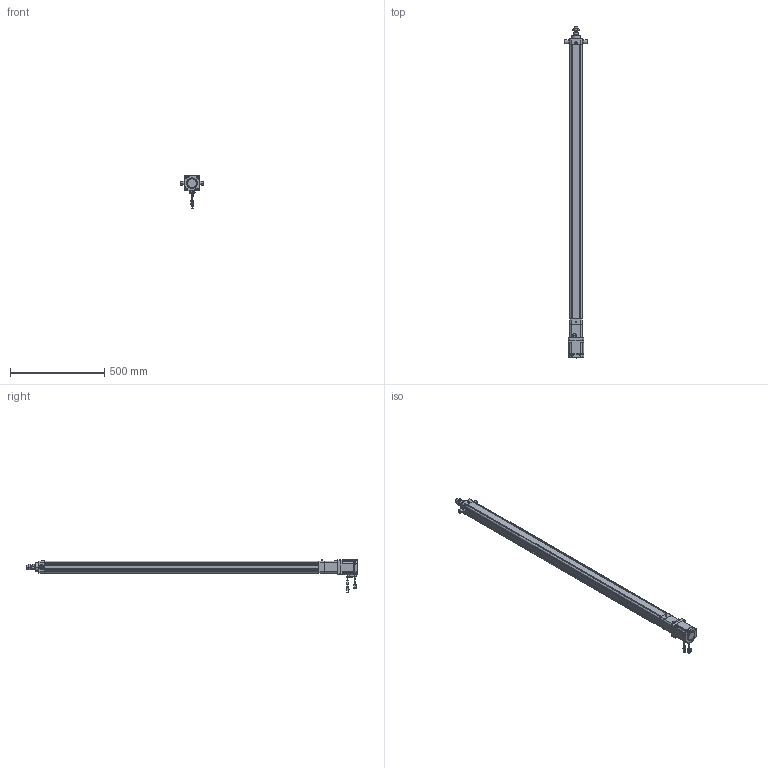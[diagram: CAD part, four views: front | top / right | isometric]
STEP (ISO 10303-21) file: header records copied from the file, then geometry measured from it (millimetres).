
FILE_DESCRIPTION((''),'2;1');
FILE_NAME('HE50-D-100-X1_ASM','2020-05-23T',('ASUS20200'),(''),'CREO PARAMETRIC BY PTC INC, 2014190','CREO PARAMETRIC BY PTC INC, 2014190','');
FILE_SCHEMA(('CONFIG_CONTROL_DESIGN'));
Length unit declared in the file: millimetre
Products named in the file (26): HE50-D-P-001-X1; HE50-D-P-002-X1; HE50-D-P-003-X1; HE50-D-009-X1; HE50-D-010-X1; 6301ZZ; LGLM-M8-22; SKT-16; SLM-01; YZ-M6X1; _MHMF082L1A2; _CABLE_MOTOR_BOTTOM_05; _CABLE_MOTOR_TOP_05; _MOTOR_CONNECTOR_2; _CABLE_BRAKE_BOTTOM_05; _CABLE_BRAKE_TOP_05; _MHMF_CONNECTOR_9_PIN_A6; MHMF082L1A2M2_1_ASM; M6X16; JX6X6X20; JDB303820; HE50-TC; HE50-D-P-005-X1; HE50-D-P-004-X1; HE50-D-P-008-X1; HE50-D-100-X1_ASM
Assembly tree (36 placements, depth 3):
  HE50-D-100-X1_ASM
    HE50-D-P-001-X1
    HE50-D-P-002-X1
    HE50-D-P-003-X1
    HE50-D-009-X1
    HE50-D-010-X1
    6301ZZ
    LGLM-M8-22  x8
    SKT-16
    SLM-01
    YZ-M6X1
    MHMF082L1A2M2_1_ASM
      _MHMF082L1A2
      _CABLE_MOTOR_BOTTOM_05
      _CABLE_MOTOR_TOP_05
      _MOTOR_CONNECTOR_2
      _CABLE_BRAKE_BOTTOM_05
      _CABLE_BRAKE_TOP_05
      _MHMF_CONNECTOR_9_PIN_A6
    M6X16  x4
    JX6X6X20
    JDB303820
    HE50-TC  x2
    HE50-D-P-005-X1
    HE50-D-P-004-X1
    HE50-D-P-008-X1
Bounding box: 124 x 1758.4 x 173.65 mm (x, y, z)
Volume: 3926255.7 mm3; surface area: 1223549.1 mm2
Topology: 35 solids, 65 shells, 2321 faces, 5685 edges, 3561 vertices
Faces by surface type: plane 978, cylinder 693, cone 501, torus 102, sphere 44, bspline 3
Entity records: 59863 total; most frequent: CARTESIAN_POINT 11394, DIRECTION 10671, ORIENTED_EDGE 9502, EDGE_CURVE 4807, AXIS2_PLACEMENT_3D 4020, VERTEX_POINT 3045, VECTOR 2631, LINE 2631
